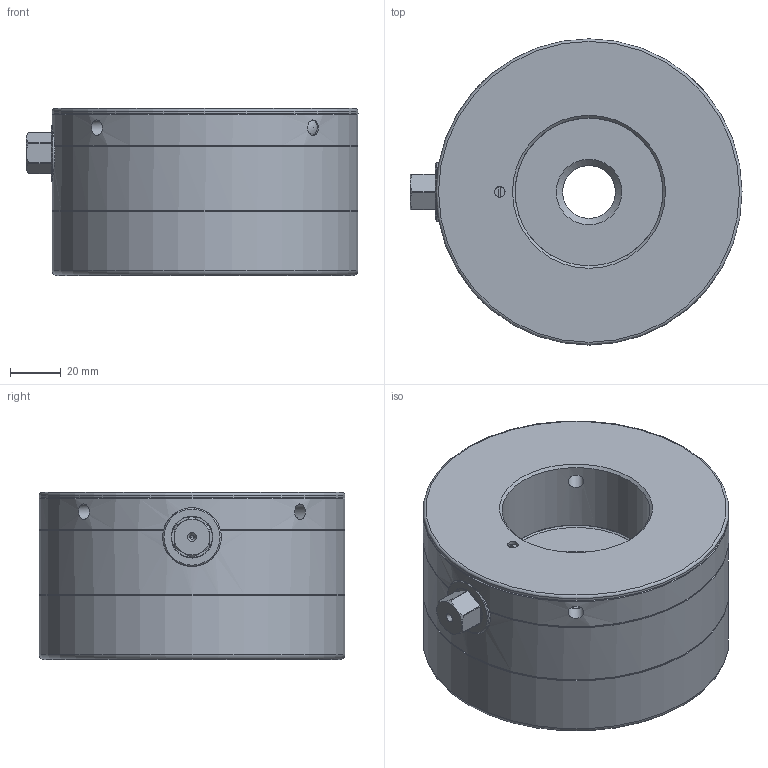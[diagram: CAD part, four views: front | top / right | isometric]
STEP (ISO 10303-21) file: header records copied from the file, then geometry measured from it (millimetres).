
FILE_DESCRIPTION(/* description */ ('Unknown','CAx-IF Rec.Pracs.---Representation and Presentation of Product Manufacturing Information (PMI)---4.0---2014-10-13','CAx-IF Rec.Pracs.---3D Tessellated Geometry---0.4---2014-09-14','2;1'),/* implementation_level */ '2;1');
FILE_NAME(/* name */ 'MDR 150 - M24 - SW14',/* time_stamp */ '2023-09-26T11:37:50+02:00',/* author */ ('Unknown'),/* organization */ ('Unknown'),/* preprocessor_version */ 'ST-DEVELOPER v18.102',/* originating_system */ 'Solid Edge',/* authorisation */ 'Unknown');
FILE_SCHEMA (('AP242_MANAGED_MODEL_BASED_3D_ENGINEERING_MIM_LF { 1 0 10303 442 1 1 4 }'));
Length unit declared in the file: millimetre
Products named in the file (1): 16332775_Vereinfachung
Bounding box: 130.2 x 120 x 65.5 mm (x, y, z)
Volume: 646267.2 mm3; surface area: 59263.7 mm2
Topology: 1 solids, 1 shells, 93 faces, 214 edges, 135 vertices
Faces by surface type: plane 31, cylinder 30, cone 24, torus 3, bspline 3, sphere 2
Full cylindrical faces by diameter (mm): 1.6 x2, 4.134 x1, 6 x8, 12 x1, 16 x1, 20.752 x1, 52 x1, 58 x1, 67 x1, 119 x1, 120 x4
Entity records: 3262 total; most frequent: CARTESIAN_POINT 813, DIRECTION 364, ORIENTED_EDGE 294, AXIS2_PLACEMENT_3D 167, FACE_BOUND 162, EDGE_LOOP 160, EDGE_CURVE 147, VERTEX_POINT 117
